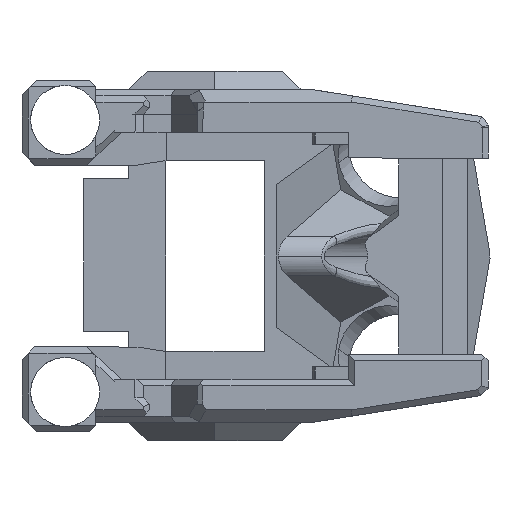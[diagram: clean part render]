
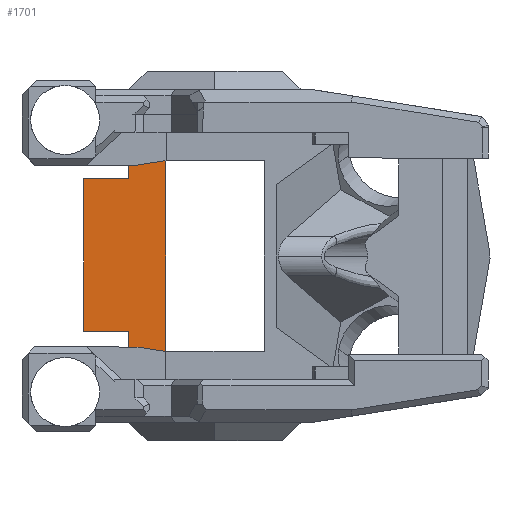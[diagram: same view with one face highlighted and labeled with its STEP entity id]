
A CAD part, left-side view. The second image highlights one B-rep face of the part: STEP entity #1701.
In plain terms, the highlighted planar face has unit normal (-1, 0, 0).
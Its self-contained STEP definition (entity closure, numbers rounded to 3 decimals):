
#111 = CARTESIAN_POINT ( 'NONE',  ( -4., -67.88, 950.842 ) ) ;
#159 = VECTOR ( 'NONE', #1395, 1000. ) ;
#275 = CARTESIAN_POINT ( 'NONE',  ( -4., -72.192, 964.337 ) ) ;
#636 = VERTEX_POINT ( 'NONE', #2119 ) ;
#659 = CARTESIAN_POINT ( 'NONE',  ( -4., -74.515, 964.699 ) ) ;
#809 = CARTESIAN_POINT ( 'NONE',  ( -4., -71.515, 0. ) ) ;
#918 = VERTEX_POINT ( 'NONE', #3644 ) ;
#995 = CARTESIAN_POINT ( 'NONE',  ( -4., -67.88, 963.22 ) ) ;
#1090 = EDGE_CURVE ( 'NONE', #7738, #636, #5882, .T. ) ;
#1185 = FACE_OUTER_BOUND ( 'NONE', #10045, .T. ) ;
#1257 = LINE ( 'NONE', #275, #4490 ) ;
#1280 = CARTESIAN_POINT ( 'NONE',  ( -4., -71.515, 963.22 ) ) ;
#1395 = DIRECTION ( 'NONE',  ( 0., 0., 1. ) ) ;
#1583 = ORIENTED_EDGE ( 'NONE', *, *, #3837, .T. ) ;
#1600 = EDGE_CURVE ( 'NONE', #918, #7302, #1836, .T. ) ;
#1701 = ADVANCED_FACE ( 'NONE', ( #1185 ), #9415, .T. ) ;
#1836 = LINE ( 'NONE', #8136, #2945 ) ;
#2007 = CARTESIAN_POINT ( 'NONE',  ( -4., 0., 963.22 ) ) ;
#2033 = LINE ( 'NONE', #5628, #11380 ) ;
#2119 = CARTESIAN_POINT ( 'NONE',  ( -4., -74.515, 964.699 ) ) ;
#2609 = EDGE_CURVE ( 'NONE', #918, #10600, #8357, .T. ) ;
#2626 = VERTEX_POINT ( 'NONE', #1280 ) ;
#2814 = DIRECTION ( 'NONE',  ( 0., -0.988, -0.151 ) ) ;
#2945 = VECTOR ( 'NONE', #9837, 1000. ) ;
#2992 = VECTOR ( 'NONE', #5595, 1000. ) ;
#3050 = CARTESIAN_POINT ( 'NONE',  ( -4., -67.88, 963.22 ) ) ;
#3644 = CARTESIAN_POINT ( 'NONE',  ( -4., -71.515, 949.557 ) ) ;
#3654 = CARTESIAN_POINT ( 'NONE',  ( -4., -71.515, 950.842 ) ) ;
#3837 = EDGE_CURVE ( 'NONE', #8637, #7394, #8170, .T. ) ;
#4167 = DIRECTION ( 'NONE',  ( 0., 0., 1. ) ) ;
#4490 = VECTOR ( 'NONE', #11210, 1000. ) ;
#4600 = ORIENTED_EDGE ( 'NONE', *, *, #1600, .T. ) ;
#4649 = EDGE_CURVE ( 'NONE', #2626, #9248, #5272, .T. ) ;
#4803 = DIRECTION ( 'NONE',  ( 0., 1., 0. ) ) ;
#4904 = ORIENTED_EDGE ( 'NONE', *, *, #2609, .F. ) ;
#4940 = EDGE_CURVE ( 'NONE', #10600, #7394, #2033, .T. ) ;
#5272 = LINE ( 'NONE', #809, #6307 ) ;
#5358 = ORIENTED_EDGE ( 'NONE', *, *, #11061, .T. ) ;
#5496 = ORIENTED_EDGE ( 'NONE', *, *, #4940, .F. ) ;
#5595 = DIRECTION ( 'NONE',  ( 0., -1., 0. ) ) ;
#5628 = CARTESIAN_POINT ( 'NONE',  ( -4., 0., 950.842 ) ) ;
#5719 = EDGE_CURVE ( 'NONE', #8637, #2626, #10076, .T. ) ;
#5853 = CARTESIAN_POINT ( 'NONE',  ( -4., -72.192, 949.555 ) ) ;
#5882 = LINE ( 'NONE', #9459, #159 ) ;
#6062 = DIRECTION ( 'NONE',  ( 0., 0.988, -0.154 ) ) ;
#6237 = ORIENTED_EDGE ( 'NONE', *, *, #7566, .T. ) ;
#6307 = VECTOR ( 'NONE', #4167, 1000. ) ;
#6394 = ORIENTED_EDGE ( 'NONE', *, *, #5719, .F. ) ;
#6574 = VECTOR ( 'NONE', #8987, 1000. ) ;
#6647 = CARTESIAN_POINT ( 'NONE',  ( -4., -71.515, 0. ) ) ;
#6856 = EDGE_CURVE ( 'NONE', #636, #11455, #6954, .T. ) ;
#6954 = LINE ( 'NONE', #659, #7558 ) ;
#7047 = CARTESIAN_POINT ( 'NONE',  ( -4., -71.515, 964.337 ) ) ;
#7302 = VERTEX_POINT ( 'NONE', #9631 ) ;
#7394 = VERTEX_POINT ( 'NONE', #111 ) ;
#7512 = VECTOR ( 'NONE', #9342, 1000. ) ;
#7558 = VECTOR ( 'NONE', #6062, 1000. ) ;
#7566 = EDGE_CURVE ( 'NONE', #7302, #7738, #9104, .T. ) ;
#7599 = CARTESIAN_POINT ( 'NONE',  ( -4., 0., 0. ) ) ;
#7738 = VERTEX_POINT ( 'NONE', #10498 ) ;
#8136 = CARTESIAN_POINT ( 'NONE',  ( -4., -71.515, 949.557 ) ) ;
#8170 = LINE ( 'NONE', #995, #6574 ) ;
#8268 = CARTESIAN_POINT ( 'NONE',  ( -4., -72.192, 964.337 ) ) ;
#8357 = LINE ( 'NONE', #6647, #7512 ) ;
#8637 = VERTEX_POINT ( 'NONE', #3050 ) ;
#8987 = DIRECTION ( 'NONE',  ( 0., 0., -1. ) ) ;
#8993 = VECTOR ( 'NONE', #2814, 1000. ) ;
#9104 = LINE ( 'NONE', #5853, #8993 ) ;
#9181 = ORIENTED_EDGE ( 'NONE', *, *, #4649, .F. ) ;
#9248 = VERTEX_POINT ( 'NONE', #7047 ) ;
#9342 = DIRECTION ( 'NONE',  ( 0., 0., 1. ) ) ;
#9415 = PLANE ( 'NONE',  #11576 ) ;
#9459 = CARTESIAN_POINT ( 'NONE',  ( -4., -74.515, 949.199 ) ) ;
#9631 = CARTESIAN_POINT ( 'NONE',  ( -4., -72.192, 949.555 ) ) ;
#9837 = DIRECTION ( 'NONE',  ( 0., -1., -0.003 ) ) ;
#10045 = EDGE_LOOP ( 'NONE', ( #6394, #1583, #5496, #4904, #4600, #6237, #10175, #11505, #5358, #9181 ) ) ;
#10076 = LINE ( 'NONE', #2007, #2992 ) ;
#10175 = ORIENTED_EDGE ( 'NONE', *, *, #1090, .T. ) ;
#10498 = CARTESIAN_POINT ( 'NONE',  ( -4., -74.515, 949.199 ) ) ;
#10600 = VERTEX_POINT ( 'NONE', #3654 ) ;
#11061 = EDGE_CURVE ( 'NONE', #11455, #9248, #1257, .T. ) ;
#11191 = DIRECTION ( 'NONE',  ( -1., 0., 0. ) ) ;
#11210 = DIRECTION ( 'NONE',  ( 0., 1., 0. ) ) ;
#11311 = DIRECTION ( 'NONE',  ( 0., 0., 1. ) ) ;
#11380 = VECTOR ( 'NONE', #4803, 1000. ) ;
#11455 = VERTEX_POINT ( 'NONE', #8268 ) ;
#11505 = ORIENTED_EDGE ( 'NONE', *, *, #6856, .T. ) ;
#11576 = AXIS2_PLACEMENT_3D ( 'NONE', #7599, #11191, #11311 ) ;
